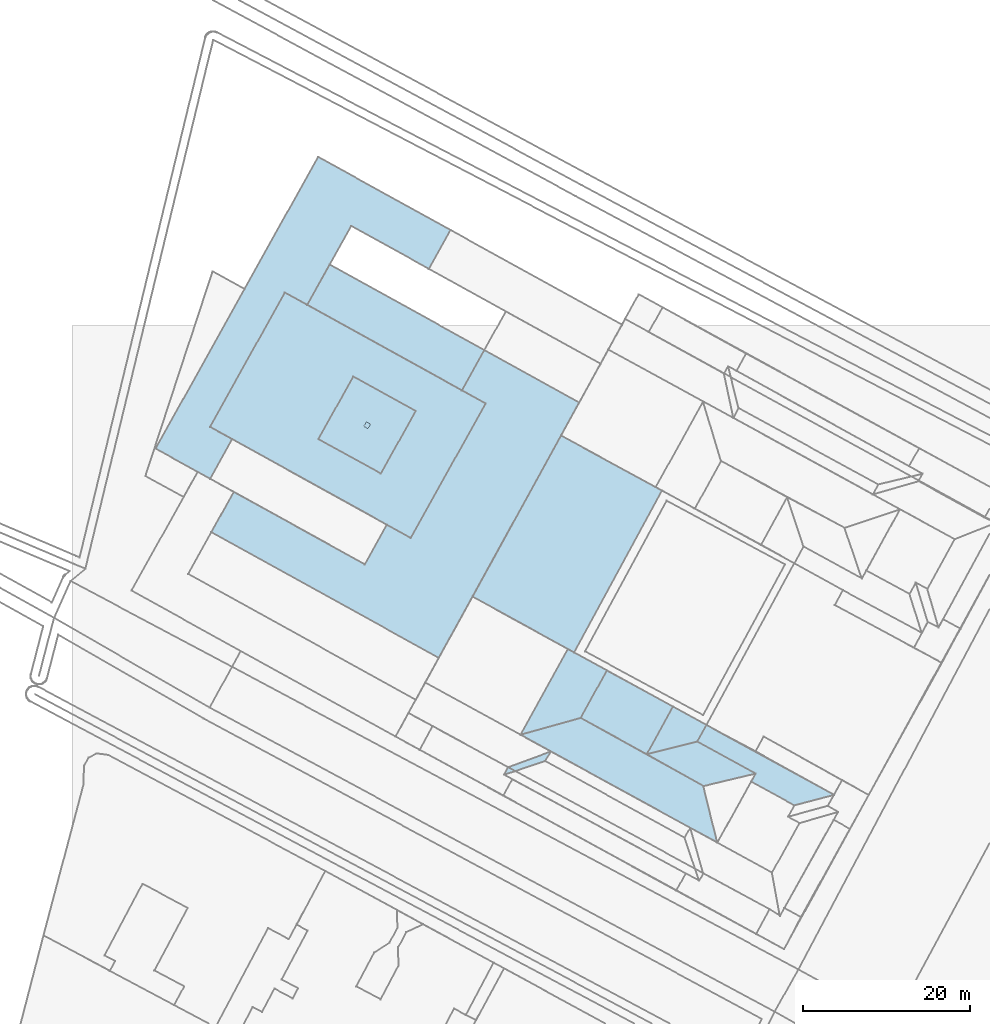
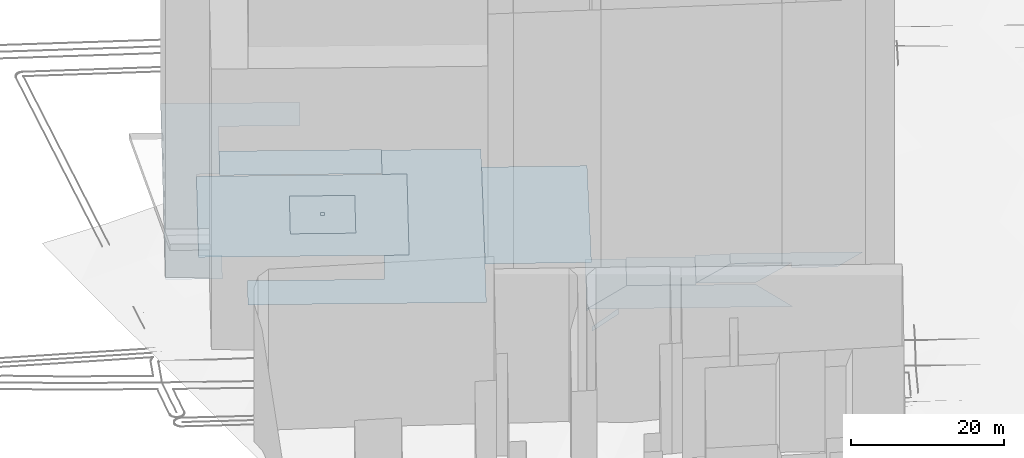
# Not in any storey, part 11 of 80: 14 footings.
"""IFC4 building model written with IfcOpenShell, lengths in metres."""

from ifc_helpers import new_model, si_unit, frame, origin_with_axes, place, context, subcontext, project, spatial, polygons, element, save


model = new_model("IFC4")

# Units and contexts
model_context = context("Model", 3, precision=1e-05, world=origin_with_axes())
body_context = subcontext(model_context, "Body", "Model", "MODEL_VIEW")
ifc_project = project(units=[si_unit("AREAUNIT", "SQUARE_METRE"), si_unit("LENGTHUNIT", "METRE")], contexts=[model_context])

# Sites, building
site_1_placement = place(None, origin_with_axes())
site_1 = spatial("IfcSite", under=ifc_project, at=site_1_placement, Name="Topoexport Site")
site_2_placement = place(site_1_placement, origin_with_axes())
site_2 = spatial("IfcSite", under=site_1, at=site_2_placement, Name="TPX_BATIMENTS")
building_1_placement = place(site_2_placement, frame((75.1201709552, 329.5761447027, 23.8507407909), z_axis=(0.0, 0.0, 1.0), x_axis=(1.0, 0.0, 0.0)))
building_1 = spatial("IfcBuilding", under=site_2, at=building_1_placement, Name="Batiment 149", CompositionType="ELEMENT")

# Footing
footing_1_placement = place(None, frame((75.1201709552, 329.5761447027, 23.8507407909), z_axis=(0.0, 0.0, 1.0), x_axis=(1.0, 0.0, 0.0)))
element("IfcFooting", 1, at=footing_1_placement, inside=building_1, Name="Sol 0", context=body_context, shape_type="Tessellation", body=[
    polygons([(0.0, 0.0, 0.0), (7.0088017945, -3.8488115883, 0.0), (6.4714030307, -4.8209481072, 0.0), (11.6537066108, -7.6695578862, 0.0), (16.4083748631, -6.4041945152, 0.0), (1.0997322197, 1.9778684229, 0.0)], [[[2, 1, 6]], [[4, 3, 2]], [[6, 5, 4]], [[4, 2, 6]]]),
])

# Building
building_2_placement = place(site_2_placement, frame((53.8808145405, 330.3842681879, 23.5017044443), z_axis=(0.0, 0.0, 1.0), x_axis=(1.0, 0.0, 0.0)))
building_2 = spatial("IfcBuilding", under=site_2, at=building_2_placement, Name="Batiment 150", CompositionType="ELEMENT")

# Footing
footing_2_placement = place(None, frame((53.8808145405, 330.3842681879, 23.5017044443), z_axis=(0.0, 0.0, 1.0), x_axis=(1.0, 0.0, 0.0)))
element("IfcFooting", 2, at=footing_2_placement, inside=building_2, Name="Sol 0", context=body_context, shape_type="Tessellation", body=[
    polygons([(0.0, 0.0, 0.0), (20.3973031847, -11.1652006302, 0.0), (23.6510455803, -12.9481890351, 0.0), (21.976830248, -6.1619484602, 0.0), (7.2275813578, 2.0268001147, 0.0)], [[[2, 1, 5]], [[4, 3, 2]], [[2, 5, 4]]]),
])

# Building
building_3_placement = place(site_2_placement, frame((48.1254357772, 346.9708364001, 22.6869888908), z_axis=(0.0, 0.0, 1.0), x_axis=(1.0, 0.0, 0.0)))
building_3 = spatial("IfcBuilding", under=site_2, at=building_3_placement, Name="Batiment 297", CompositionType="ELEMENT")

# Footing
footing_3_placement = place(None, frame((48.1254357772, 346.9708364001, 22.6869888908), z_axis=(0.0, 0.0, 1.0), x_axis=(1.0, 0.0, 0.0)))
element("IfcFooting", 3, at=footing_3_placement, inside=building_3, Name="Sol 0", context=body_context, shape_type="Tessellation", body=[
    polygons([(0.0, 0.0, 0.0), (12.1994914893, -6.6973667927, 0.0), (22.753475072, 12.7319860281, 0.0), (10.6309973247, 19.3414111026, 0.0)], [[[2, 1, 4]], [[4, 3, 2]]]),
])

# Building
building_4_placement = place(site_2_placement, frame((53.8808145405, 330.3842681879, 23.2090927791), z_axis=(0.0, 0.0, 1.0), x_axis=(1.0, 0.0, 0.0)))
building_4 = spatial("IfcBuilding", under=site_2, at=building_4_placement, Name="Batiment 299", CompositionType="ELEMENT")

# Footing
footing_4_placement = place(None, frame((53.8808145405, 330.3842681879, 23.2090927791), z_axis=(0.0, 0.0, 1.0), x_axis=(1.0, 0.0, 0.0)))
element("IfcFooting", 4, at=footing_4_placement, inside=building_4, Name="Sol 0", context=body_context, shape_type="Tessellation", body=[
    polygons([(0.0, 0.0, 0.0), (7.2275813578, 2.0268001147, 0.0), (10.3860090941, 7.7256178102, 0.0), (5.6964786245, 10.3024073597, 0.0)], [[[2, 1, 4]], [[4, 3, 2]]]),
])

# Building
building_5_placement = place(site_2_placement, frame((69.0516677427, 328.0512876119, 23.6953649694), z_axis=(0.0, 0.0, 1.0), x_axis=(1.0, 0.0, 0.0)))
building_5 = spatial("IfcBuilding", under=site_2, at=building_5_placement, Name="Batiment 300", CompositionType="ELEMENT")

# Footing
footing_5_placement = place(None, frame((69.0516677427, 328.0512876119, 23.6953649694), z_axis=(0.0, 0.0, 1.0), x_axis=(1.0, 0.0, 0.0)))
element("IfcFooting", 5, at=footing_5_placement, inside=building_5, Name="Sol 0", context=body_context, shape_type="Tessellation", body=[
    polygons([(0.0, 0.0, 0.0), (6.0685032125, 1.5248570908, 0.0), (7.1682354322, 3.5027255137, 0.0), (3.1498546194, 5.7098238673, 0.0)], [[[2, 1, 4]], [[4, 3, 2]]]),
])

# Building
building_6_placement = place(site_2_placement, frame((61.1083958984, 332.4110683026, 23.390927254), z_axis=(0.0, 0.0, 1.0), x_axis=(1.0, 0.0, 0.0)))
building_6 = spatial("IfcBuilding", under=site_2, at=building_6_placement, Name="Batiment 301", CompositionType="ELEMENT")

# Footing
footing_6_placement = place(None, frame((61.1083958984, 332.4110683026, 23.390927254), z_axis=(0.0, 0.0, 1.0), x_axis=(1.0, 0.0, 0.0)))
element("IfcFooting", 6, at=footing_6_placement, inside=building_6, Name="Sol 0", context=body_context, shape_type="Tessellation", body=[
    polygons([(0.0, 0.0, 0.0), (7.9432718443, -4.3597806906, 0.0), (11.0931264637, 1.3500431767, 0.0), (3.1584277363, 5.6988176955, 0.0)], [[[2, 1, 4]], [[4, 3, 2]]]),
])

# Building
building_7_placement = place(site_2_placement, frame((16.7688335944, 354.7226631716, 22.4076126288), z_axis=(0.0, 0.0, 1.0), x_axis=(1.0, 0.0, 0.0)))
building_7 = spatial("IfcBuilding", under=site_2, at=building_7_placement, Name="Batiment 306", CompositionType="ELEMENT")

# Footing
footing_7_placement = place(None, frame((16.7688335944, 354.7226631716, 22.4076126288), z_axis=(0.0, 0.0, 1.0), x_axis=(1.0, 0.0, 0.0)))
element("IfcFooting", 7, at=footing_7_placement, inside=building_7, Name="Sol 0", context=body_context, shape_type="Tessellation", body=[
    polygons([(0.0, 0.0, 0.0), (27.3056955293, -15.1041300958, 0.0), (44.1700510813, 15.5562215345, 0.0), (32.7770605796, 21.8632672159, 0.0), (30.0813661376, 17.0247000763, 0.0), (32.9359432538, 15.4480094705, 0.0), (23.9392342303, -0.6991752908, 0.0), (21.0760840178, 0.8885216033, 0.0), (18.4215440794, -3.8607450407, 0.0), (2.6874090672, 4.8273569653, 0.0)], [[[2, 1, 10]], [[5, 4, 3]], [[9, 8, 7]], [[2, 10, 9]], [[6, 5, 3]], [[2, 9, 7]], [[6, 3, 2]], [[2, 7, 6]]]),
])

# Building
building_8_placement = place(site_2_placement, frame((28.2698359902, 382.0233366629, 22.5121474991), z_axis=(0.0, 0.0, 1.0), x_axis=(1.0, 0.0, 0.0)))
building_8 = spatial("IfcBuilding", under=site_2, at=building_8_placement, Name="Batiment 307", CompositionType="ELEMENT")

# Footing
footing_8_placement = place(None, frame((28.2698359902, 382.0233366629, 22.5121474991), z_axis=(0.0, 0.0, 1.0), x_axis=(1.0, 0.0, 0.0)))
element("IfcFooting", 8, at=footing_8_placement, inside=building_8, Name="Sol 0", context=body_context, shape_type="Tessellation", body=[
    polygons([(0.0, 0.0, 0.0), (18.5803637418, -10.275973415, 0.0), (21.2760581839, -5.4374062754, 0.0), (2.6958312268, 4.8274595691, 0.0)], [[[2, 1, 4]], [[4, 3, 2]]]),
])

# Building
building_9_placement = place(site_2_placement, frame((10.068288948, 364.747963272, 22.7304030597), z_axis=(0.0, 0.0, 1.0), x_axis=(1.0, 0.0, 0.0)))
building_9 = spatial("IfcBuilding", under=site_2, at=building_9_placement, Name="Batiment 308", CompositionType="ELEMENT")

# Footing
footing_9_placement = place(None, frame((10.068288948, 364.747963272, 22.7304030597), z_axis=(0.0, 0.0, 1.0), x_axis=(1.0, 0.0, 0.0)))
element("IfcFooting", 9, at=footing_9_placement, inside=building_9, Name="Sol 0", context=body_context, shape_type="Tessellation", body=[
    polygons([(0.0, 0.0, 0.0), (6.5418195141, -3.6211429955, 0.0), (9.196238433, 1.1392176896, 0.0), (6.5370782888, 2.6071649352, 0.0), (15.5253815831, 18.7542222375, 0.0), (18.2015470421, 17.2753733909, 0.0), (23.4855455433, 26.7514080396, 0.0), (32.8138870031, 21.5972119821, 0.0), (35.4104872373, 26.245889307, 0.0), (19.514901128, 35.0320145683, 0.0)], [[[3, 2, 1]], [[7, 6, 5]], [[9, 8, 7]], [[4, 3, 1]], [[10, 9, 7]], [[4, 1, 10]], [[10, 7, 5]], [[5, 4, 10]]]),
])

# Building
building_10_placement = place(site_2_placement, frame((16.6053672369, 367.3551282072, 22.4076126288), z_axis=(0.0, 0.0, 1.0), x_axis=(1.0, 0.0, 0.0)))
building_10 = spatial("IfcBuilding", under=site_2, at=building_10_placement, Name="Batiment 309", CompositionType="ELEMENT")

# Footing
footing_10_placement = place(None, frame((16.6053672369, 367.3551282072, 22.4076126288), z_axis=(0.0, 0.0, 1.0), x_axis=(1.0, 0.0, 0.0)))
element("IfcFooting", 10, at=footing_10_placement, inside=building_10, Name="Sol 0", context=body_context, shape_type="Tessellation", body=[
    polygons([(0.0, 0.0, 0.0), (24.1027005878, -13.3316403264, 0.0), (33.0994096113, 2.8155444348, 0.0), (8.9883032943, 16.1470573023, 0.0)], [[[2, 1, 4]], [[4, 3, 2]]]),
])

# Building
building_11_placement = place(site_2_placement, frame((35.0654153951, 367.4472321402, 22.5801140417), z_axis=(0.0, 0.0, 1.0), x_axis=(1.0, 0.0, 0.0)))
building_11 = spatial("IfcBuilding", under=site_2, at=building_11_placement, Name="Batiment 310", CompositionType="ELEMENT")

# Footing
footing_11_placement = place(None, frame((35.0654153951, 367.4472321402, 22.5801140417), z_axis=(0.0, 0.0, 1.0), x_axis=(1.0, 0.0, 0.0)))
element("IfcFooting", 11, at=footing_11_placement, inside=building_11, Name="Sol 0", context=body_context, shape_type="Tessellation", body=[
    polygons([(0.0, 0.0, 0.0), (0.4927502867, -0.2718373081, 0.0), (0.7987231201, 0.2757242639, 0.0), (0.3059728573, 0.5475615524, 0.0)], [[[2, 1, 4]], [[4, 3, 2]]]),
])

# Building
building_12_placement = place(site_2_placement, frame((29.6218946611, 365.8963536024, 22.4832836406), z_axis=(0.0, 0.0, 1.0), x_axis=(1.0, 0.0, 0.0)))
building_12 = spatial("IfcBuilding", under=site_2, at=building_12_placement, Name="Batiment 311", CompositionType="ELEMENT")

# Footing
footing_12_placement = place(None, frame((29.6218946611, 365.8963536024, 22.4832836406), z_axis=(0.0, 0.0, 1.0), x_axis=(1.0, 0.0, 0.0)))
element("IfcFooting", 12, at=footing_12_placement, inside=building_12, Name="Sol 0", context=body_context, shape_type="Tessellation", body=[
    polygons([(0.0, 0.0, 0.0), (7.5017517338, -4.1428926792, 0.0), (11.6857620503, 3.3774859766, 0.0), (4.192455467, 7.5204723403, 0.0)], [[[2, 1, 4]], [[4, 3, 2]]]),
])

# Building
building_13_placement = place(site_2_placement, frame((69.0516677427, 328.0512876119, 23.794695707), z_axis=(0.0, 0.0, 1.0), x_axis=(1.0, 0.0, 0.0)))
building_13 = spatial("IfcBuilding", under=site_2, at=building_13_placement, Name="Batiment 328", CompositionType="ELEMENT")

# Footing
footing_13_placement = place(None, frame((69.0516677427, 328.0512876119, 23.794695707), z_axis=(0.0, 0.0, 1.0), x_axis=(1.0, 0.0, 0.0)))
element("IfcFooting", 13, at=footing_13_placement, inside=building_13, Name="Sol 0", context=body_context, shape_type="Tessellation", body=[
    polygons([(0.0, 0.0, 0.0), (6.8059770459, -3.8289678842, 0.0), (13.077305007, -2.3239544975, 0.0), (6.0685032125, 1.5248570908, 0.0)], [[[2, 1, 4]], [[4, 3, 2]]]),
])

# Building
building_14_placement = place(site_2_placement, frame((51.9190164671, 325.5875262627, 23.5481954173), z_axis=(0.0, 0.0, 1.0), x_axis=(1.0, 0.0, 0.0)))
building_14 = spatial("IfcBuilding", under=site_2, at=building_14_placement, Name="Batiment 331", CompositionType="ELEMENT")

# Footing
footing_14_placement = place(None, frame((51.9190164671, 325.5875262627, 23.5481954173), z_axis=(0.0, 0.0, 1.0), x_axis=(1.0, 0.0, 0.0)))
element("IfcFooting", 14, at=footing_14_placement, inside=building_14, Name="Sol 0", context=body_context, shape_type="Tessellation", body=[
    polygons([(0.0, 0.0, 0.0), (4.9275340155, 1.6448242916, 0.0), (5.6147975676, 2.7963347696, 0.0), (0.4875344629, 0.9049419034, 0.0)], [[[2, 1, 4]], [[4, 3, 2]]]),
])

save(model, "model.ifc")
